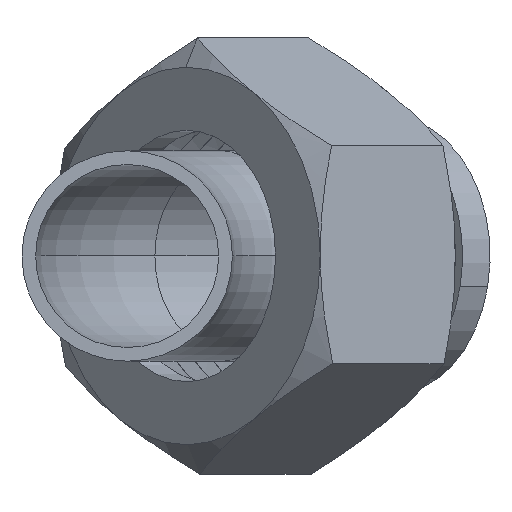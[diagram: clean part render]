
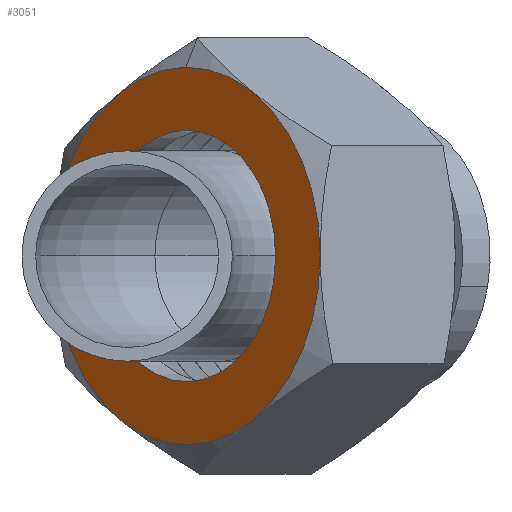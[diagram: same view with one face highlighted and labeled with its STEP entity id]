
A CAD part, front view. The second image highlights one B-rep face of the part: STEP entity #3051.
In plain terms, the highlighted planar face has unit normal (-0.707, -0.707, 0) as drawn and (0, 0, -1) by its records, which use the part's own axes.
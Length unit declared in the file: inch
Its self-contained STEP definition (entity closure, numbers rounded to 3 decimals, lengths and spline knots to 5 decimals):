
#45 = DIRECTION ( 'NONE',  ( 0., 0., -1. ) ) ;
#57 = CARTESIAN_POINT ( 'NONE',  ( 0., 0., 0. ) ) ;
#75 = ORIENTED_EDGE ( 'NONE', *, *, #496, .F. ) ;
#172 = AXIS2_PLACEMENT_3D ( 'NONE', #1971, #311, #2253 ) ;
#234 = EDGE_CURVE ( 'NONE', #530, #659, #3262, .T. ) ;
#241 = VERTEX_POINT ( 'NONE', #1359 ) ;
#286 = AXIS2_PLACEMENT_3D ( 'NONE', #2545, #902, #2810 ) ;
#311 = DIRECTION ( 'NONE',  ( 0., 0., 1. ) ) ;
#338 = ORIENTED_EDGE ( 'NONE', *, *, #414, .F. ) ;
#348 = DIRECTION ( 'NONE',  ( -1., 0., 0. ) ) ;
#414 = EDGE_CURVE ( 'NONE', #3412, #241, #2249, .T. ) ;
#424 = EDGE_CURVE ( 'NONE', #659, #1756, #2865, .T. ) ;
#446 = EDGE_LOOP ( 'NONE', ( #75, #2651 ) ) ;
#456 = VERTEX_POINT ( 'NONE', #591 ) ;
#472 = EDGE_CURVE ( 'NONE', #530, #2670, #2158, .T. ) ;
#479 = EDGE_CURVE ( 'NONE', #241, #2670, #686, .T. ) ;
#496 = EDGE_CURVE ( 'NONE', #456, #1257, #2783, .T. ) ;
#530 = VERTEX_POINT ( 'NONE', #910 ) ;
#585 = PLANE ( 'NONE',  #793 ) ;
#591 = CARTESIAN_POINT ( 'NONE',  ( -0.5975, 0., 0. ) ) ;
#614 = CIRCLE ( 'NONE', #899, 0.8975 ) ;
#622 = CARTESIAN_POINT ( 'NONE',  ( 0.5975, 0., 0. ) ) ;
#659 = VERTEX_POINT ( 'NONE', #2744 ) ;
#681 = ORIENTED_EDGE ( 'NONE', *, *, #424, .F. ) ;
#686 = CIRCLE ( 'NONE', #2668, 0.8975 ) ;
#745 = CARTESIAN_POINT ( 'NONE',  ( -0.77726, -0.44875, 0. ) ) ;
#793 = AXIS2_PLACEMENT_3D ( 'NONE', #851, #1405, #1144 ) ;
#851 = CARTESIAN_POINT ( 'NONE',  ( 0., 0., 0. ) ) ;
#873 = DIRECTION ( 'NONE',  ( 0., 0., 1. ) ) ;
#881 = EDGE_CURVE ( 'NONE', #3367, #3412, #3408, .T. ) ;
#887 = EDGE_CURVE ( 'NONE', #1756, #3367, #614, .T. ) ;
#899 = AXIS2_PLACEMENT_3D ( 'NONE', #1408, #3281, #1689 ) ;
#902 = DIRECTION ( 'NONE',  ( 0., 0., -1. ) ) ;
#910 = CARTESIAN_POINT ( 'NONE',  ( -0.77726, 0.44875, 0. ) ) ;
#1100 = ORIENTED_EDGE ( 'NONE', *, *, #887, .F. ) ;
#1144 = DIRECTION ( 'NONE',  ( 1., 0., 0. ) ) ;
#1169 = DIRECTION ( 'NONE',  ( 0., 0., 1. ) ) ;
#1216 = ORIENTED_EDGE ( 'NONE', *, *, #881, .F. ) ;
#1257 = VERTEX_POINT ( 'NONE', #622 ) ;
#1359 = CARTESIAN_POINT ( 'NONE',  ( 0.77726, 0.44875, 0. ) ) ;
#1405 = DIRECTION ( 'NONE',  ( 0., 0., 1. ) ) ;
#1408 = CARTESIAN_POINT ( 'NONE',  ( 0., 0., 0. ) ) ;
#1413 = EDGE_LOOP ( 'NONE', ( #2672, #338, #1216, #1100, #681, #2830, #2522 ) ) ;
#1435 = DIRECTION ( 'NONE',  ( 0., 0., 1. ) ) ;
#1545 = CIRCLE ( 'NONE', #286, 0.5975 ) ;
#1634 = CARTESIAN_POINT ( 'NONE',  ( 0., 0., 0. ) ) ;
#1689 = DIRECTION ( 'NONE',  ( 1., 0., 0. ) ) ;
#1715 = CARTESIAN_POINT ( 'NONE',  ( 0., 0., 0. ) ) ;
#1756 = VERTEX_POINT ( 'NONE', #745 ) ;
#1902 = DIRECTION ( 'NONE',  ( 1., 0., 0. ) ) ;
#1971 = CARTESIAN_POINT ( 'NONE',  ( 0., 0., 0. ) ) ;
#1995 = DIRECTION ( 'NONE',  ( -1., 0., 0. ) ) ;
#2009 = DIRECTION ( 'NONE',  ( 0., 0., -1. ) ) ;
#2158 = CIRCLE ( 'NONE', #3155, 0.8975 ) ;
#2249 = CIRCLE ( 'NONE', #172, 0.8975 ) ;
#2253 = DIRECTION ( 'NONE',  ( 1., 0., 0. ) ) ;
#2286 = FACE_BOUND ( 'NONE', #446, .T. ) ;
#2380 = AXIS2_PLACEMENT_3D ( 'NONE', #1634, #3504, #1902 ) ;
#2416 = AXIS2_PLACEMENT_3D ( 'NONE', #2524, #873, #2782 ) ;
#2522 = ORIENTED_EDGE ( 'NONE', *, *, #472, .T. ) ;
#2524 = CARTESIAN_POINT ( 'NONE',  ( 0., 0., 0. ) ) ;
#2541 = AXIS2_PLACEMENT_3D ( 'NONE', #57, #2009, #348 ) ;
#2545 = CARTESIAN_POINT ( 'NONE',  ( 0., 0., 0. ) ) ;
#2609 = CARTESIAN_POINT ( 'NONE',  ( 0., -0.8975, 0. ) ) ;
#2651 = ORIENTED_EDGE ( 'NONE', *, *, #3217, .F. ) ;
#2668 = AXIS2_PLACEMENT_3D ( 'NONE', #2806, #1169, #3055 ) ;
#2670 = VERTEX_POINT ( 'NONE', #3496 ) ;
#2672 = ORIENTED_EDGE ( 'NONE', *, *, #479, .F. ) ;
#2720 = DIRECTION ( 'NONE',  ( 1., 0., 0. ) ) ;
#2744 = CARTESIAN_POINT ( 'NONE',  ( -0.8975, 0., 0. ) ) ;
#2782 = DIRECTION ( 'NONE',  ( 1., 0., 0. ) ) ;
#2783 = CIRCLE ( 'NONE', #2541, 0.5975 ) ;
#2806 = CARTESIAN_POINT ( 'NONE',  ( 0., 0., 0. ) ) ;
#2810 = DIRECTION ( 'NONE',  ( -1., 0., 0. ) ) ;
#2830 = ORIENTED_EDGE ( 'NONE', *, *, #234, .F. ) ;
#2865 = CIRCLE ( 'NONE', #2416, 0.8975 ) ;
#2961 = FACE_OUTER_BOUND ( 'NONE', #1413, .T. ) ;
#3022 = AXIS2_PLACEMENT_3D ( 'NONE', #3040, #1435, #2720 ) ;
#3040 = CARTESIAN_POINT ( 'NONE',  ( 0., 0., 0. ) ) ;
#3051 = ADVANCED_FACE ( 'NONE', ( #2286, #2961 ), #585, .F. ) ;
#3055 = DIRECTION ( 'NONE',  ( 1., 0., 0. ) ) ;
#3155 = AXIS2_PLACEMENT_3D ( 'NONE', #1715, #45, #1995 ) ;
#3217 = EDGE_CURVE ( 'NONE', #1257, #456, #1545, .T. ) ;
#3262 = CIRCLE ( 'NONE', #2380, 0.8975 ) ;
#3281 = DIRECTION ( 'NONE',  ( 0., 0., 1. ) ) ;
#3367 = VERTEX_POINT ( 'NONE', #2609 ) ;
#3377 = CARTESIAN_POINT ( 'NONE',  ( 0.77726, -0.44875, 0. ) ) ;
#3408 = CIRCLE ( 'NONE', #3022, 0.8975 ) ;
#3412 = VERTEX_POINT ( 'NONE', #3377 ) ;
#3496 = CARTESIAN_POINT ( 'NONE',  ( 0., 0.8975, 0. ) ) ;
#3504 = DIRECTION ( 'NONE',  ( 0., 0., 1. ) ) ;
